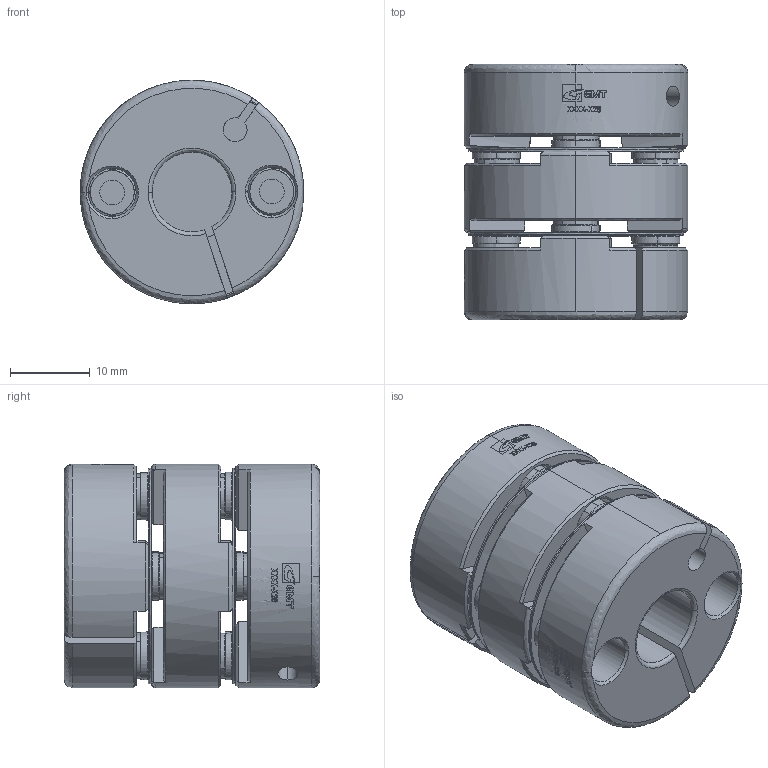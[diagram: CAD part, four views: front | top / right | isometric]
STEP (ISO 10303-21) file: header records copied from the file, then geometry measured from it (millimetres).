
FILE_DESCRIPTION (( 'STEP AP203' ), '1' );
FILE_NAME ('FACC-L28.STEP', '2008-04-04T05:05:30', ( '陳志豪' ), ( '高明鐵企業股份有限公司' ), 'SwSTEP 2.0', 'SolidWorks 2007', '' );
FILE_SCHEMA (( 'CONFIG_CONTROL_DESIGN' ));
Length unit declared in the file: millimetre
Products named in the file (1): FACC-L28
Bounding box: 28 x 32 x 28 mm (x, y, z)
Surface area: 11407.6 mm2 (no closed solid volume)
Topology: 0 solids, 12 shells, 434 faces, 1346 edges, 938 vertices
Faces by surface type: cylinder 150, plane 97, cone 96, bspline 91
Entity records: 26814 total; most frequent: CARTESIAN_POINT 16391, ORIENTED_EDGE 2576, DIRECTION 1429, EDGE_CURVE 1338, VERTEX_POINT 938, B_SPLINE_CURVE_WITH_KNOTS 791, AXIS2_PLACEMENT_3D 558, EDGE_LOOP 507
